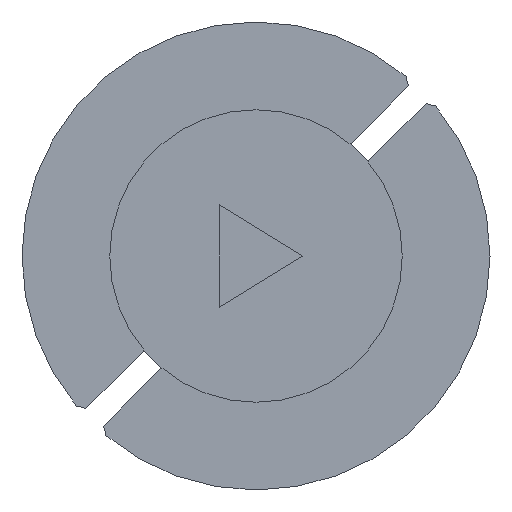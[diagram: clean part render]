
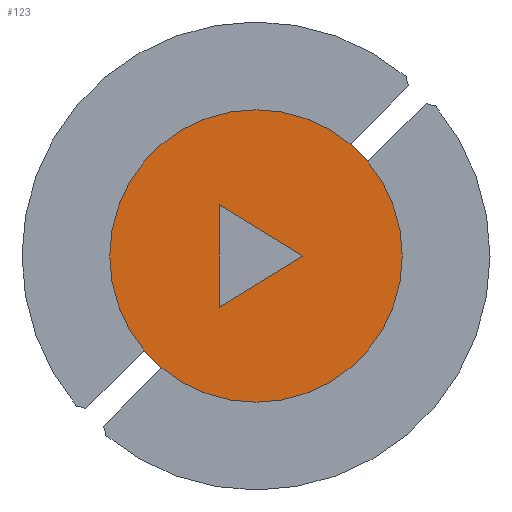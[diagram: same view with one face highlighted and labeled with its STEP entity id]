
A CAD part, front view. The second image highlights one B-rep face of the part: STEP entity #123.
In plain terms, the highlighted planar face has unit normal (0, -1, 0).
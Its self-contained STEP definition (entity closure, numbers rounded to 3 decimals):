
#39 = EDGE_CURVE('',#40,#40,#42,.T.);
#40 = VERTEX_POINT('',#41);
#41 = CARTESIAN_POINT('',(10.,-25.2,-30.));
#42 = SURFACE_CURVE('',#43,(#48,#60),.PCURVE_S1.);
#43 = CIRCLE('',#44,10.);
#44 = AXIS2_PLACEMENT_3D('',#45,#46,#47);
#45 = CARTESIAN_POINT('',(0.,-25.2,-30.));
#46 = DIRECTION('',(0.,-1.,0.));
#47 = DIRECTION('',(1.,0.,0.));
#48 = PCURVE('',#49,#54);
#49 = CYLINDRICAL_SURFACE('',#50,10.);
#50 = AXIS2_PLACEMENT_3D('',#51,#52,#53);
#51 = CARTESIAN_POINT('',(0.,-23.2,-30.));
#52 = DIRECTION('',(0.,-1.,0.));
#53 = DIRECTION('',(1.,0.,0.));
#54 = DEFINITIONAL_REPRESENTATION('',(#55),#59);
#55 = LINE('',#56,#57);
#56 = CARTESIAN_POINT('',(0.,2.));
#57 = VECTOR('',#58,1.);
#58 = DIRECTION('',(1.,0.));
#59 = ( GEOMETRIC_REPRESENTATION_CONTEXT(2) 
PARAMETRIC_REPRESENTATION_CONTEXT() REPRESENTATION_CONTEXT('2D SPACE',''
  ) );
#60 = PCURVE('',#61,#66);
#61 = PLANE('',#62);
#62 = AXIS2_PLACEMENT_3D('',#63,#64,#65);
#63 = CARTESIAN_POINT('',(0.,-25.2,-30.));
#64 = DIRECTION('',(0.,-1.,0.));
#65 = DIRECTION('',(1.,0.,0.));
#66 = DEFINITIONAL_REPRESENTATION('',(#67),#71);
#67 = CIRCLE('',#68,10.);
#68 = AXIS2_PLACEMENT_2D('',#69,#70);
#69 = CARTESIAN_POINT('',(0.,0.));
#70 = DIRECTION('',(1.,0.));
#71 = ( GEOMETRIC_REPRESENTATION_CONTEXT(2) 
PARAMETRIC_REPRESENTATION_CONTEXT() REPRESENTATION_CONTEXT('2D SPACE',''
  ) );
#123 = ADVANCED_FACE('',(#124,#127),#61,.T.);
#124 = FACE_BOUND('',#125,.T.);
#125 = EDGE_LOOP('',(#126));
#126 = ORIENTED_EDGE('',*,*,#39,.T.);
#127 = FACE_BOUND('',#128,.T.);
#128 = EDGE_LOOP('',(#129,#159,#187));
#129 = ORIENTED_EDGE('',*,*,#130,.F.);
#130 = EDGE_CURVE('',#131,#133,#135,.T.);
#131 = VERTEX_POINT('',#132);
#132 = CARTESIAN_POINT('',(-2.5,-25.2,-26.5));
#133 = VERTEX_POINT('',#134);
#134 = CARTESIAN_POINT('',(-2.5,-25.2,-33.5));
#135 = SURFACE_CURVE('',#136,(#140,#147),.PCURVE_S1.);
#136 = LINE('',#137,#138);
#137 = CARTESIAN_POINT('',(-2.5,-25.2,-31.75));
#138 = VECTOR('',#139,1.);
#139 = DIRECTION('',(-0.,0.,-1.));
#140 = PCURVE('',#61,#141);
#141 = DEFINITIONAL_REPRESENTATION('',(#142),#146);
#142 = LINE('',#143,#144);
#143 = CARTESIAN_POINT('',(-2.5,-1.75));
#144 = VECTOR('',#145,1.);
#145 = DIRECTION('',(-0.,-1.));
#146 = ( GEOMETRIC_REPRESENTATION_CONTEXT(2) 
PARAMETRIC_REPRESENTATION_CONTEXT() REPRESENTATION_CONTEXT('2D SPACE',''
  ) );
#147 = PCURVE('',#148,#153);
#148 = PLANE('',#149);
#149 = AXIS2_PLACEMENT_3D('',#150,#151,#152);
#150 = CARTESIAN_POINT('',(-2.5,-24.65,-33.5));
#151 = DIRECTION('',(-1.,0.,0.));
#152 = DIRECTION('',(0.,0.,1.));
#153 = DEFINITIONAL_REPRESENTATION('',(#154),#158);
#154 = LINE('',#155,#156);
#155 = CARTESIAN_POINT('',(1.75,-0.55));
#156 = VECTOR('',#157,1.);
#157 = DIRECTION('',(-1.,0.));
#158 = ( GEOMETRIC_REPRESENTATION_CONTEXT(2) 
PARAMETRIC_REPRESENTATION_CONTEXT() REPRESENTATION_CONTEXT('2D SPACE',''
  ) );
#159 = ORIENTED_EDGE('',*,*,#160,.F.);
#160 = EDGE_CURVE('',#161,#131,#163,.T.);
#161 = VERTEX_POINT('',#162);
#162 = CARTESIAN_POINT('',(3.2,-25.2,-30.));
#163 = SURFACE_CURVE('',#164,(#168,#175),.PCURVE_S1.);
#164 = LINE('',#165,#166);
#165 = CARTESIAN_POINT('',(-0.812,-25.2,-27.537));
#166 = VECTOR('',#167,1.);
#167 = DIRECTION('',(-0.852,0.,0.523));
#168 = PCURVE('',#61,#169);
#169 = DEFINITIONAL_REPRESENTATION('',(#170),#174);
#170 = LINE('',#171,#172);
#171 = CARTESIAN_POINT('',(-0.812,2.463));
#172 = VECTOR('',#173,1.);
#173 = DIRECTION('',(-0.852,0.523));
#174 = ( GEOMETRIC_REPRESENTATION_CONTEXT(2) 
PARAMETRIC_REPRESENTATION_CONTEXT() REPRESENTATION_CONTEXT('2D SPACE',''
  ) );
#175 = PCURVE('',#176,#181);
#176 = PLANE('',#177);
#177 = AXIS2_PLACEMENT_3D('',#178,#179,#180);
#178 = CARTESIAN_POINT('',(-2.5,-24.65,-26.5));
#179 = DIRECTION('',(0.523,0.,0.852));
#180 = DIRECTION('',(0.852,0.,-0.523));
#181 = DEFINITIONAL_REPRESENTATION('',(#182),#186);
#182 = LINE('',#183,#184);
#183 = CARTESIAN_POINT('',(1.981,-0.55));
#184 = VECTOR('',#185,1.);
#185 = DIRECTION('',(-1.,0.));
#186 = ( GEOMETRIC_REPRESENTATION_CONTEXT(2) 
PARAMETRIC_REPRESENTATION_CONTEXT() REPRESENTATION_CONTEXT('2D SPACE',''
  ) );
#187 = ORIENTED_EDGE('',*,*,#188,.F.);
#188 = EDGE_CURVE('',#133,#161,#189,.T.);
#189 = SURFACE_CURVE('',#190,(#194,#201),.PCURVE_S1.);
#190 = LINE('',#191,#192);
#191 = CARTESIAN_POINT('',(2.038,-25.2,-30.713));
#192 = VECTOR('',#193,1.);
#193 = DIRECTION('',(0.852,0.,0.523));
#194 = PCURVE('',#61,#195);
#195 = DEFINITIONAL_REPRESENTATION('',(#196),#200);
#196 = LINE('',#197,#198);
#197 = CARTESIAN_POINT('',(2.038,-0.713));
#198 = VECTOR('',#199,1.);
#199 = DIRECTION('',(0.852,0.523));
#200 = ( GEOMETRIC_REPRESENTATION_CONTEXT(2) 
PARAMETRIC_REPRESENTATION_CONTEXT() REPRESENTATION_CONTEXT('2D SPACE',''
  ) );
#201 = PCURVE('',#202,#207);
#202 = PLANE('',#203);
#203 = AXIS2_PLACEMENT_3D('',#204,#205,#206);
#204 = CARTESIAN_POINT('',(3.2,-24.65,-30.));
#205 = DIRECTION('',(0.523,0.,-0.852));
#206 = DIRECTION('',(-0.852,-0.,-0.523));
#207 = DEFINITIONAL_REPRESENTATION('',(#208),#212);
#208 = LINE('',#209,#210);
#209 = CARTESIAN_POINT('',(1.363,-0.55));
#210 = VECTOR('',#211,1.);
#211 = DIRECTION('',(-1.,0.));
#212 = ( GEOMETRIC_REPRESENTATION_CONTEXT(2) 
PARAMETRIC_REPRESENTATION_CONTEXT() REPRESENTATION_CONTEXT('2D SPACE',''
  ) );
